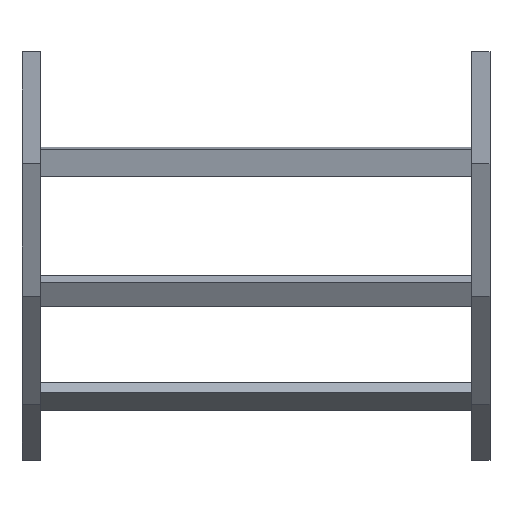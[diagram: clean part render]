
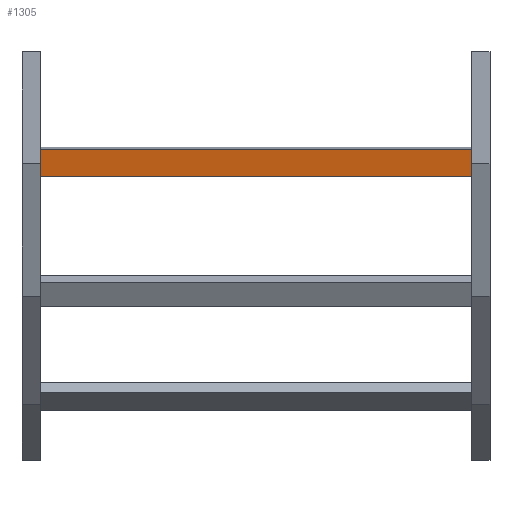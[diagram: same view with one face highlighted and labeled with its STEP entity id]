
A CAD part, front view. The second image highlights one B-rep face of the part: STEP entity #1305.
In plain terms, the highlighted planar face has unit normal (0, -0.985, -0.174) as drawn and (0, -1, 0) by its records, which use the part's own axes.
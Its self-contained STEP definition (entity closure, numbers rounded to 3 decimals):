
#7 = CARTESIAN_POINT ( 'NONE',  ( 348., 0., -20.25 ) ) ;
#55 = DIRECTION ( 'NONE',  ( -1., 0., 0. ) ) ;
#115 = VECTOR ( 'NONE', #250, 1000. ) ;
#250 = DIRECTION ( 'NONE',  ( 0., 0., -1. ) ) ;
#283 = VERTEX_POINT ( 'NONE', #456 ) ;
#348 = ORIENTED_EDGE ( 'NONE', *, *, #1274, .F. ) ;
#379 = DIRECTION ( 'NONE',  ( 0., 1., 0. ) ) ;
#456 = CARTESIAN_POINT ( 'NONE',  ( -348., 0., -20.25 ) ) ;
#500 = CARTESIAN_POINT ( 'NONE',  ( 348., 0., 20.25 ) ) ;
#633 = DIRECTION ( 'NONE',  ( -1., 0., 0. ) ) ;
#679 = AXIS2_PLACEMENT_3D ( 'NONE', #1591, #379, #1435 ) ;
#693 = EDGE_CURVE ( 'NONE', #943, #283, #1661, .T. ) ;
#742 = CARTESIAN_POINT ( 'NONE',  ( -348., 0., 20.25 ) ) ;
#807 = CARTESIAN_POINT ( 'NONE',  ( 348., 0., 20.25 ) ) ;
#838 = EDGE_CURVE ( 'NONE', #1291, #943, #967, .T. ) ;
#943 = VERTEX_POINT ( 'NONE', #742 ) ;
#961 = ORIENTED_EDGE ( 'NONE', *, *, #1044, .F. ) ;
#967 = LINE ( 'NONE', #1484, #1536 ) ;
#1039 = PLANE ( 'NONE',  #679 ) ;
#1044 = EDGE_CURVE ( 'NONE', #1291, #1546, #1062, .T. ) ;
#1062 = LINE ( 'NONE', #807, #1368 ) ;
#1093 = VECTOR ( 'NONE', #633, 1000. ) ;
#1105 = ORIENTED_EDGE ( 'NONE', *, *, #693, .T. ) ;
#1274 = EDGE_CURVE ( 'NONE', #1546, #283, #1461, .T. ) ;
#1291 = VERTEX_POINT ( 'NONE', #500 ) ;
#1297 = CARTESIAN_POINT ( 'NONE',  ( -348., 0., 20.25 ) ) ;
#1305 = ADVANCED_FACE ( 'NONE', ( #1689 ), #1039, .F. ) ;
#1358 = DIRECTION ( 'NONE',  ( 0., 0., -1. ) ) ;
#1368 = VECTOR ( 'NONE', #1358, 1000. ) ;
#1373 = EDGE_LOOP ( 'NONE', ( #1105, #348, #961, #1633 ) ) ;
#1435 = DIRECTION ( 'NONE',  ( 0., 0., 1. ) ) ;
#1461 = LINE ( 'NONE', #7, #1093 ) ;
#1484 = CARTESIAN_POINT ( 'NONE',  ( 348., 0., 20.25 ) ) ;
#1536 = VECTOR ( 'NONE', #55, 1000. ) ;
#1542 = CARTESIAN_POINT ( 'NONE',  ( 348., 0., -20.25 ) ) ;
#1546 = VERTEX_POINT ( 'NONE', #1542 ) ;
#1591 = CARTESIAN_POINT ( 'NONE',  ( 348., 0., 20.25 ) ) ;
#1633 = ORIENTED_EDGE ( 'NONE', *, *, #838, .T. ) ;
#1661 = LINE ( 'NONE', #1297, #115 ) ;
#1689 = FACE_OUTER_BOUND ( 'NONE', #1373, .T. ) ;
